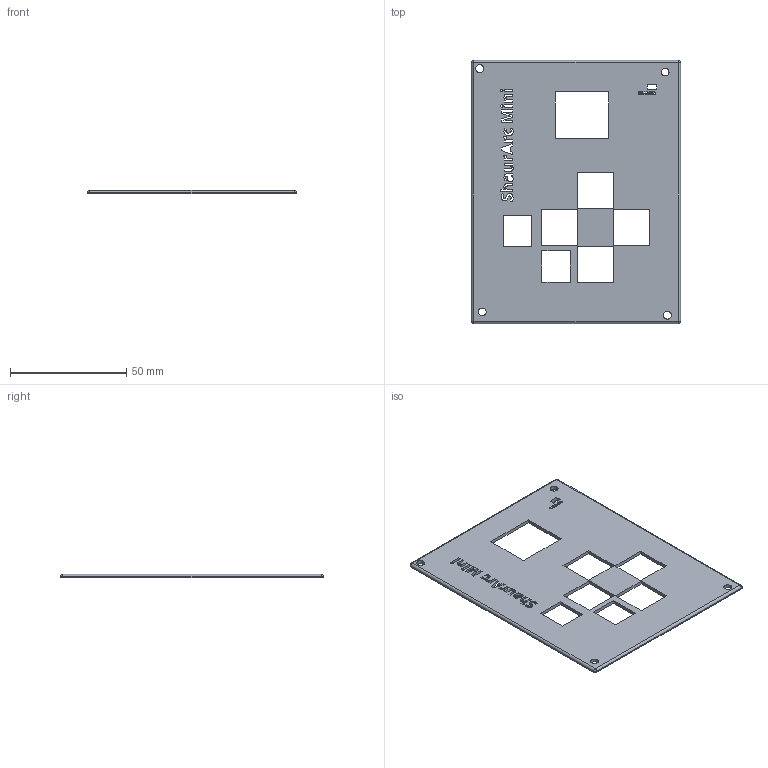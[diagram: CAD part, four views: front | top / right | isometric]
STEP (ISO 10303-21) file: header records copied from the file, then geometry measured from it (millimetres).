
FILE_DESCRIPTION(('STEP AP242 Edition 2','STEP AP242 Edition 2''CAx-IF Rec.Pracs.---Representation and Presentation of Product Manufacturing Information (PMI)---4.0---2014-10-13','STEP AP242 Edition 2''CAx-IF Rec.Pracs.---Representation and Presentation of Product Manufacturing Information (PMI)---4.0---2014-10-13''CAx-IF Rec.Pracs.---3D Tessellated Geometry---0.4---2014-09-14','STEP AP242 Edition 2''CAx-IF Rec.Pracs.---Representation and Presentation of Product Manufacturing Information (PMI)---4.0---2014-10-13''CAx-IF Rec.Pracs.---3D Tessellated Geometry---0.4---2014-09-14''2;1','STEP AP242 Edition 2''CAx-IF Rec.Pracs.---Representation and Presentation of Product Manufacturing Information (PMI)---4.0---2014-10-13''CAx-IF Rec.Pracs.---3D Tessellated Geometry---0.4---2014-09-14''2;1''CAx-IF Rec.Pracs.---User Defined Attributes---1.5---2016-08-15'),'2;1');
FILE_NAME('/vol/tmp/translate-17016349319801364938/Part Studio 2 - Part 1.step','2026-03-29T21:16:22',(''),(''),'ST-DEVELOPER v20','ONSHAPE BY PTC INC, 1.212',' ');
FILE_SCHEMA(('AP242_MANAGED_MODEL_BASED_3D_ENGINEERING_MIM_LF { 1 0 10303 442 3 1 4 }'));
Length unit declared in the file: metre
Products named in the file (1): Part 1
Bounding box: 90 x 113.26 x 1.5 mm (x, y, z)
Volume: 12333.7 mm3; surface area: 18126.3 mm2
Topology: 1 solids, 1 shells, 321 faces, 949 edges, 626 vertices
Faces by surface type: plane 173, bspline 86, cylinder 58, sphere 4
Full cylindrical faces by diameter (mm): 3.4 x4
Entity records: 11037 total; most frequent: CARTESIAN_POINT 2835, ORIENTED_EDGE 1882, DIRECTION 1357, EDGE_CURVE 941, LINE 653, VECTOR 653, VERTEX_POINT 626, EDGE_LOOP 391
